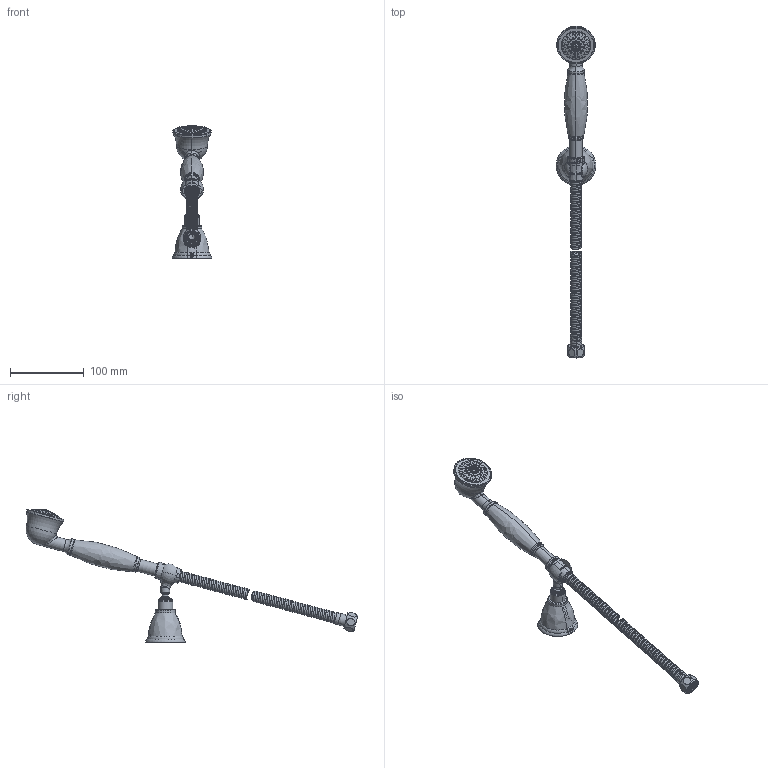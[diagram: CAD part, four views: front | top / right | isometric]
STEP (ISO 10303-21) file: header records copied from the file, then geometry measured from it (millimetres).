
FILE_DESCRIPTION((''),'2;1');
FILE_NAME('76514--00_GEN_ASM','2023-02-02T09:29:33',('sosm1'),(''),'CREO PARAMETRIC BY PTC INC, 2022244','CREO PARAMETRIC BY PTC INC, 2022244','');
FILE_SCHEMA(('CONFIG_CONTROL_DESIGN'));
Products named in the file (23): 76611_POS6; 76611_POS4; 76611_POS5; 76611_POS1; 76611_IGS_SOLEX_ASM; 76611--00_GEN_SUB01_ASM; 76650_POS11; 76650_POS12; 76650_POS1; 76650_POS3; 76650_POS6; 76652--00_ASM; 4383900_TLB_ASM; 43840--_ASM; 19291--_POS1; 19291--_POS3; 19291--_POS4; 19291--_POS6; 19291--_POS7; 19291--_SUB02_ASM; 46058--_ASM; 19291--_ASM; 76514--00_GEN_ASM
Assembly tree (22 placements, depth 5):
  76514--00_GEN_ASM
    43840--_ASM
      76611--00_GEN_SUB01_ASM
        76611_IGS_SOLEX_ASM
          76611_POS6
          76611_POS4
          76611_POS5
          76611_POS1
      4383900_TLB_ASM
        76652--00_ASM
          76650_POS11
          76650_POS12
          76650_POS1
          76650_POS3
          76650_POS6
    19291--_ASM
      46058--_ASM
        19291--_POS1
        19291--_POS3
        19291--_POS4
        19291--_POS6
        19291--_SUB02_ASM
          19291--_POS7
Bounding box: 53.94 x 450.7 x 180.48 mm (x, y, z)
Volume: 111683.3 mm3; surface area: 92380.7 mm2
Topology: 17 solids, 17 shells, 1020 faces, 2622 edges, 1640 vertices
Faces by surface type: cylinder 478, bspline 164, plane 146, torus 113, cone 101, sphere 18
Entity records: 74664 total; most frequent: CARTESIAN_POINT 51524, ORIENTED_EDGE 5216, DIRECTION 3906, EDGE_CURVE 2608, VERTEX_POINT 1640, AXIS2_PLACEMENT_3D 1518, EDGE_LOOP 1174, B_SPLINE_CURVE_WITH_KNOTS 1141
